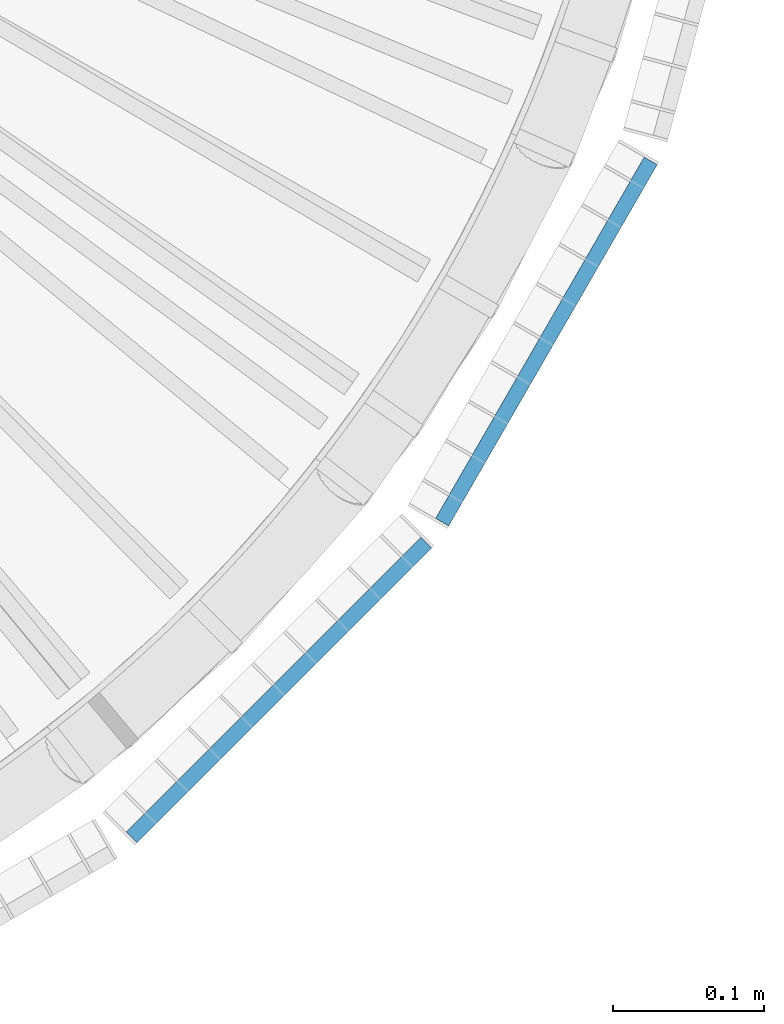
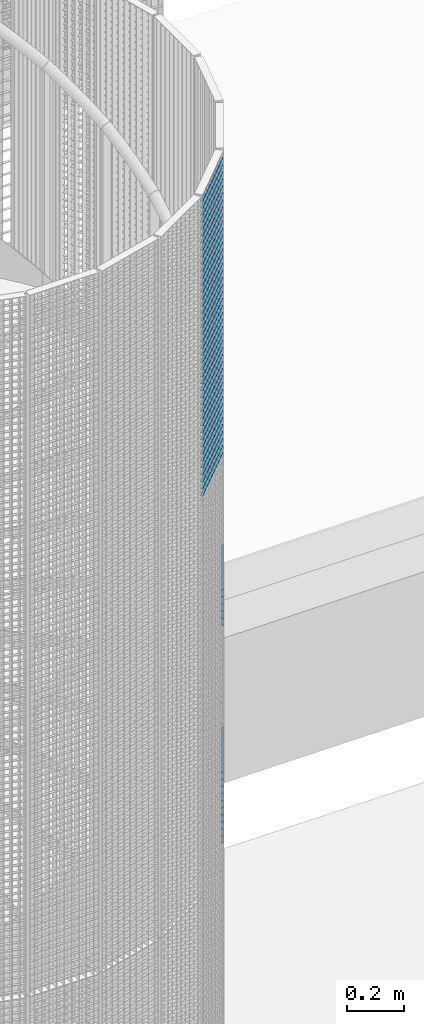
# One storey, part 223 of 1148: 60 beams, 2 elements without a shape of their own.
"""IFC2X3 building model written with IfcOpenShell, lengths in millimetres."""

from ifc_helpers import new_model, si_unit, frame, origin_with_axes, origin_2d_with_axis, place, context, subcontext, project, spatial, rectangle, extrude, material, type_object, element, aggregate, save


model = new_model("IFC2X3")

# Units and contexts
model_context = context("Model", 3, precision=1e-05, world=origin_with_axes())
body_context = subcontext(model_context, "Body", "Model", "MODEL_VIEW")
ifc_project = project(units=[si_unit("LENGTHUNIT", "METRE", prefix="MILLI"), si_unit("AREAUNIT", "SQUARE_METRE"), si_unit("VOLUMEUNIT", "CUBIC_METRE"), si_unit("MASSUNIT", "GRAM", prefix="KILO"), si_unit("TIMEUNIT", "SECOND"), si_unit("PLANEANGLEUNIT", "RADIAN"), si_unit("SOLIDANGLEUNIT", "STERADIAN"), si_unit("THERMODYNAMICTEMPERATUREUNIT", "DEGREE_CELSIUS"), si_unit("LUMINOUSINTENSITYUNIT", "LUMEN")], contexts=[model_context])

# Site, building, storey
site_placement = place(None, origin_with_axes())
site = spatial("IfcSite", under=ifc_project, at=site_placement, Name="Undefined", CompositionType="ELEMENT")
building_placement = place(site_placement, origin_with_axes())
building = spatial("IfcBuilding", under=site, at=building_placement, Name="Undefined", CompositionType="ELEMENT")
storey_placement = place(building_placement, origin_with_axes())
storey = spatial("IfcBuildingStorey", under=building, at=storey_placement, Name="Undefined", CompositionType="ELEMENT", Elevation=0.0)

# Assembly, beams
assembly_1_placement = place(storey_placement, origin_with_axes())
assembly_1 = element("IfcElementAssembly", 1, at=assembly_1_placement, inside=storey, Name="BORDURE", AssemblyPlace="NOTDEFINED", PredefinedType="NOTDEFINED")
ifc_material = material(Name="STEEL/S235JR")
beam_type = type_object("IfcBeamType", Name="PL2*10", PredefinedType="NOTDEFINED")
beam_1_placement = place(assembly_1_placement, frame((895.30396491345, -676.24804453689, 15330.0), z_axis=(0.866025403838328, -0.49999999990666, 0.0), x_axis=(0.49999999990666, 0.866025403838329, 0.0)))
beam_1 = element("IfcBeam", 2, at=beam_1_placement, type_object=beam_type, material=ifc_material, Name="ENTRETOISE", context=body_context, shape_type="SweptSolid", body=[
    extrude(rectangle(XDim=2.0, YDim=10.0, at=origin_2d_with_axis()), frame((275.999999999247, 9.09494701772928e-13, 1.53210777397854e-14), z_axis=(-1.0, 0.0, 0.0), x_axis=(0.0, -1.0, 0.0)), (0.0, 0.0, 1.0), 276.0),
])
beam_2_placement = place(assembly_1_placement, frame((895.303964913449, -676.248044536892, 15960.0), z_axis=(0.866025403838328, -0.49999999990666, 0.0), x_axis=(0.49999999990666, 0.866025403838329, 0.0)))
beam_2 = element("IfcBeam", 3, at=beam_2_placement, type_object=beam_type, material=ifc_material, Name="ENTRETOISE", context=body_context, shape_type="SweptSolid", body=[
    extrude(rectangle(XDim=2.0, YDim=10.0, at=origin_2d_with_axis()), frame((275.999999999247, 9.09494701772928e-13, 1.53210777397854e-14), z_axis=(-1.0, 0.0, 0.0), x_axis=(0.0, -1.0, 0.0)), (0.0, 0.0, 1.0), 276.0),
])
beam_3_placement = place(assembly_1_placement, frame((895.30396491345, -676.24804453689, 15300.0), z_axis=(0.866025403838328, -0.49999999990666, 0.0), x_axis=(0.49999999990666, 0.866025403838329, 0.0)))
beam_3 = element("IfcBeam", 4, at=beam_3_placement, type_object=beam_type, material=ifc_material, Name="ENTRETOISE", context=body_context, shape_type="SweptSolid", body=[
    extrude(rectangle(XDim=2.0, YDim=10.0, at=origin_2d_with_axis()), frame((275.999999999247, 9.09494701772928e-13, 1.53210777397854e-14), z_axis=(-1.0, 0.0, 0.0), x_axis=(0.0, -1.0, 0.0)), (0.0, 0.0, 1.0), 276.0),
])
beam_4_placement = place(assembly_1_placement, frame((895.30396491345, -676.24804453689, 15270.0), z_axis=(0.866025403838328, -0.49999999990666, 0.0), x_axis=(0.49999999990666, 0.866025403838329, 0.0)))
beam_4 = element("IfcBeam", 5, at=beam_4_placement, type_object=beam_type, material=ifc_material, Name="ENTRETOISE", context=body_context, shape_type="SweptSolid", body=[
    extrude(rectangle(XDim=2.0, YDim=10.0, at=origin_2d_with_axis()), frame((275.999999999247, 9.09494701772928e-13, 1.53210777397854e-14), z_axis=(-1.0, 0.0, 0.0), x_axis=(0.0, -1.0, 0.0)), (0.0, 0.0, 1.0), 276.0),
])
beam_5_placement = place(assembly_1_placement, frame((895.303964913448, -676.248044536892, 15990.0), z_axis=(0.866025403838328, -0.49999999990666, 0.0), x_axis=(0.49999999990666, 0.866025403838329, 0.0)))
beam_5 = element("IfcBeam", 6, at=beam_5_placement, type_object=beam_type, material=ifc_material, Name="ENTRETOISE", context=body_context, shape_type="SweptSolid", body=[
    extrude(rectangle(XDim=2.0, YDim=10.0, at=origin_2d_with_axis()), frame((275.999999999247, 9.09494701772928e-13, 1.53210777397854e-14), z_axis=(-1.0, 0.0, 0.0), x_axis=(0.0, -1.0, 0.0)), (0.0, 0.0, 1.0), 276.0),
])
beam_6_placement = place(assembly_1_placement, frame((895.30396491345, -676.24804453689, 15240.0), z_axis=(0.866025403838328, -0.49999999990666, 0.0), x_axis=(0.49999999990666, 0.866025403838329, 0.0)))
beam_6 = element("IfcBeam", 7, at=beam_6_placement, type_object=beam_type, material=ifc_material, Name="ENTRETOISE", context=body_context, shape_type="SweptSolid", body=[
    extrude(rectangle(XDim=2.0, YDim=10.0, at=origin_2d_with_axis()), frame((275.999999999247, 9.09494701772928e-13, 1.53210777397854e-14), z_axis=(-1.0, 0.0, 0.0), x_axis=(0.0, -1.0, 0.0)), (0.0, 0.0, 1.0), 276.0),
])
beam_7_placement = place(assembly_1_placement, frame((895.303964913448, -676.248044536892, 16020.0), z_axis=(0.866025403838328, -0.49999999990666, 0.0), x_axis=(0.49999999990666, 0.866025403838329, 0.0)))
beam_7 = element("IfcBeam", 8, at=beam_7_placement, type_object=beam_type, material=ifc_material, Name="ENTRETOISE", context=body_context, shape_type="SweptSolid", body=[
    extrude(rectangle(XDim=2.0, YDim=10.0, at=origin_2d_with_axis()), frame((275.999999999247, 9.09494701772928e-13, 1.53210777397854e-14), z_axis=(-1.0, 0.0, 0.0), x_axis=(0.0, -1.0, 0.0)), (0.0, 0.0, 1.0), 276.0),
])
beam_8_placement = place(assembly_1_placement, frame((895.30396491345, -676.24804453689, 15210.0), z_axis=(0.866025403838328, -0.49999999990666, 0.0), x_axis=(0.49999999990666, 0.866025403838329, 0.0)))
beam_8 = element("IfcBeam", 9, at=beam_8_placement, type_object=beam_type, material=ifc_material, Name="ENTRETOISE", context=body_context, shape_type="SweptSolid", body=[
    extrude(rectangle(XDim=2.0, YDim=10.0, at=origin_2d_with_axis()), frame((275.999999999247, 9.09494701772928e-13, 1.53210777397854e-14), z_axis=(-1.0, 0.0, 0.0), x_axis=(0.0, -1.0, 0.0)), (0.0, 0.0, 1.0), 276.0),
])
beam_9_placement = place(assembly_1_placement, frame((895.30396491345, -676.24804453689, 15180.0), z_axis=(0.866025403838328, -0.49999999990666, 0.0), x_axis=(0.49999999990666, 0.866025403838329, 0.0)))
beam_9 = element("IfcBeam", 10, at=beam_9_placement, type_object=beam_type, material=ifc_material, Name="ENTRETOISE", context=body_context, shape_type="SweptSolid", body=[
    extrude(rectangle(XDim=2.0, YDim=10.0, at=origin_2d_with_axis()), frame((275.999999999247, 9.09494701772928e-13, 1.53210777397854e-14), z_axis=(-1.0, 0.0, 0.0), x_axis=(0.0, -1.0, 0.0)), (0.0, 0.0, 1.0), 276.0),
])
beam_10_placement = place(assembly_1_placement, frame((895.303964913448, -676.248044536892, 16050.0), z_axis=(0.866025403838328, -0.49999999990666, 0.0), x_axis=(0.49999999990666, 0.866025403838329, 0.0)))
beam_10 = element("IfcBeam", 11, at=beam_10_placement, type_object=beam_type, material=ifc_material, Name="ENTRETOISE", context=body_context, shape_type="SweptSolid", body=[
    extrude(rectangle(XDim=2.0, YDim=10.0, at=origin_2d_with_axis()), frame((275.999999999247, 9.09494701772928e-13, 1.53210777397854e-14), z_axis=(-1.0, 0.0, 0.0), x_axis=(0.0, -1.0, 0.0)), (0.0, 0.0, 1.0), 276.0),
])
beam_11_placement = place(assembly_1_placement, frame((895.30396491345, -676.24804453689, 15150.0), z_axis=(0.866025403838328, -0.49999999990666, 0.0), x_axis=(0.49999999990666, 0.866025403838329, 0.0)))
beam_11 = element("IfcBeam", 12, at=beam_11_placement, type_object=beam_type, material=ifc_material, Name="ENTRETOISE", context=body_context, shape_type="SweptSolid", body=[
    extrude(rectangle(XDim=2.0, YDim=10.0, at=origin_2d_with_axis()), frame((275.999999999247, 9.09494701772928e-13, 1.53210777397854e-14), z_axis=(-1.0, 0.0, 0.0), x_axis=(0.0, -1.0, 0.0)), (0.0, 0.0, 1.0), 276.0),
])
beam_12_placement = place(assembly_1_placement, frame((895.30396491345, -676.24804453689, 15120.0), z_axis=(0.866025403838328, -0.49999999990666, 0.0), x_axis=(0.49999999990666, 0.866025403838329, 0.0)))
beam_12 = element("IfcBeam", 13, at=beam_12_placement, type_object=beam_type, material=ifc_material, Name="ENTRETOISE", context=body_context, shape_type="SweptSolid", body=[
    extrude(rectangle(XDim=2.0, YDim=10.0, at=origin_2d_with_axis()), frame((275.999999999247, 9.09494701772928e-13, 1.53210777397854e-14), z_axis=(-1.0, 0.0, 0.0), x_axis=(0.0, -1.0, 0.0)), (0.0, 0.0, 1.0), 276.0),
])
beam_13_placement = place(assembly_1_placement, frame((895.303964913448, -676.248044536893, 16080.0), z_axis=(0.866025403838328, -0.49999999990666, 0.0), x_axis=(0.49999999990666, 0.866025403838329, 0.0)))
beam_13 = element("IfcBeam", 14, at=beam_13_placement, type_object=beam_type, material=ifc_material, Name="ENTRETOISE", context=body_context, shape_type="SweptSolid", body=[
    extrude(rectangle(XDim=2.0, YDim=10.0, at=origin_2d_with_axis()), frame((275.999999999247, 9.09494701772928e-13, 1.53210777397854e-14), z_axis=(-1.0, 0.0, 0.0), x_axis=(0.0, -1.0, 0.0)), (0.0, 0.0, 1.0), 276.0),
])
beam_14_placement = place(assembly_1_placement, frame((895.30396491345, -676.248044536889, 15090.0), z_axis=(0.866025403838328, -0.49999999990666, 0.0), x_axis=(0.49999999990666, 0.866025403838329, 0.0)))
beam_14 = element("IfcBeam", 15, at=beam_14_placement, type_object=beam_type, material=ifc_material, Name="ENTRETOISE", context=body_context, shape_type="SweptSolid", body=[
    extrude(rectangle(XDim=2.0, YDim=10.0, at=origin_2d_with_axis()), frame((275.999999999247, 9.09494701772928e-13, 1.53210777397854e-14), z_axis=(-1.0, 0.0, 0.0), x_axis=(0.0, -1.0, 0.0)), (0.0, 0.0, 1.0), 276.0),
])
beam_15_placement = place(assembly_1_placement, frame((895.30396491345, -676.248044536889, 15060.0), z_axis=(0.866025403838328, -0.49999999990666, 0.0), x_axis=(0.49999999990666, 0.866025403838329, 0.0)))
beam_15 = element("IfcBeam", 16, at=beam_15_placement, type_object=beam_type, material=ifc_material, Name="ENTRETOISE", context=body_context, shape_type="SweptSolid", body=[
    extrude(rectangle(XDim=2.0, YDim=10.0, at=origin_2d_with_axis()), frame((275.999999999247, 9.09494701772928e-13, 1.53210777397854e-14), z_axis=(-1.0, 0.0, 0.0), x_axis=(0.0, -1.0, 0.0)), (0.0, 0.0, 1.0), 276.0),
])
beam_16_placement = place(assembly_1_placement, frame((895.303964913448, -676.248044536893, 16110.0), z_axis=(0.866025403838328, -0.49999999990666, 0.0), x_axis=(0.49999999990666, 0.866025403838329, 0.0)))
beam_16 = element("IfcBeam", 17, at=beam_16_placement, type_object=beam_type, material=ifc_material, Name="ENTRETOISE", context=body_context, shape_type="SweptSolid", body=[
    extrude(rectangle(XDim=2.0, YDim=10.0, at=origin_2d_with_axis()), frame((275.999999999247, 9.09494701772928e-13, 1.53210777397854e-14), z_axis=(-1.0, 0.0, 0.0), x_axis=(0.0, -1.0, 0.0)), (0.0, 0.0, 1.0), 276.0),
])
beam_17_placement = place(assembly_1_placement, frame((895.30396491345, -676.248044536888, 15030.0), z_axis=(0.866025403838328, -0.49999999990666, 0.0), x_axis=(0.49999999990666, 0.866025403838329, 0.0)))
beam_17 = element("IfcBeam", 18, at=beam_17_placement, type_object=beam_type, material=ifc_material, Name="ENTRETOISE", context=body_context, shape_type="SweptSolid", body=[
    extrude(rectangle(XDim=2.0, YDim=10.0, at=origin_2d_with_axis()), frame((275.999999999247, 9.09494701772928e-13, 1.53210777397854e-14), z_axis=(-1.0, 0.0, 0.0), x_axis=(0.0, -1.0, 0.0)), (0.0, 0.0, 1.0), 276.0),
])
aggregate(assembly_1, [beam_1, beam_2, beam_3, beam_4, beam_5, beam_6, beam_7, beam_8, beam_9, beam_10, beam_11, beam_12, beam_13, beam_14, beam_15, beam_16, beam_17])

assembly_2_placement = place(storey_placement, origin_with_axes())
assembly_2 = element("IfcElementAssembly", 19, at=assembly_2_placement, inside=storey, Name="BORDURE", AssemblyPlace="NOTDEFINED", PredefinedType="NOTDEFINED")
beam_18_placement = place(assembly_2_placement, frame((689.771348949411, -884.927168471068, 17970.0), z_axis=(0.707106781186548, -0.707106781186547, 0.0), x_axis=(0.707106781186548, 0.707106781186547, 0.0)))
beam_18 = element("IfcBeam", 20, at=beam_18_placement, type_object=beam_type, material=ifc_material, Name="ENTRETOISE", context=body_context, shape_type="SweptSolid", body=[
    extrude(rectangle(XDim=2.0, YDim=10.0, at=origin_2d_with_axis()), frame((275.999999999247, 9.09494701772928e-13, 1.53210777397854e-14), z_axis=(-1.0, 0.0, 0.0), x_axis=(0.0, -1.0, 0.0)), (0.0, 0.0, 1.0), 276.0),
])
beam_19_placement = place(assembly_2_placement, frame((689.771348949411, -884.927168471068, 17940.0), z_axis=(0.707106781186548, -0.707106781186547, 0.0), x_axis=(0.707106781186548, 0.707106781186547, 0.0)))
beam_19 = element("IfcBeam", 21, at=beam_19_placement, type_object=beam_type, material=ifc_material, Name="ENTRETOISE", context=body_context, shape_type="SweptSolid", body=[
    extrude(rectangle(XDim=2.0, YDim=10.0, at=origin_2d_with_axis()), frame((275.999999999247, 9.09494701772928e-13, 1.53210777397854e-14), z_axis=(-1.0, 0.0, 0.0), x_axis=(0.0, -1.0, 0.0)), (0.0, 0.0, 1.0), 276.0),
])
beam_20_placement = place(assembly_2_placement, frame((689.771348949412, -884.927168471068, 17910.0), z_axis=(0.707106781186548, -0.707106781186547, 0.0), x_axis=(0.707106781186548, 0.707106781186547, 0.0)))
beam_20 = element("IfcBeam", 22, at=beam_20_placement, type_object=beam_type, material=ifc_material, Name="ENTRETOISE", context=body_context, shape_type="SweptSolid", body=[
    extrude(rectangle(XDim=2.0, YDim=10.0, at=origin_2d_with_axis()), frame((275.999999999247, 9.09494701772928e-13, 1.53210777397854e-14), z_axis=(-1.0, 0.0, 0.0), x_axis=(0.0, -1.0, 0.0)), (0.0, 0.0, 1.0), 276.0),
])
beam_21_placement = place(assembly_2_placement, frame((689.771348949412, -884.927168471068, 17880.0), z_axis=(0.707106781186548, -0.707106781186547, 0.0), x_axis=(0.707106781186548, 0.707106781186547, 0.0)))
beam_21 = element("IfcBeam", 23, at=beam_21_placement, type_object=beam_type, material=ifc_material, Name="ENTRETOISE", context=body_context, shape_type="SweptSolid", body=[
    extrude(rectangle(XDim=2.0, YDim=10.0, at=origin_2d_with_axis()), frame((275.999999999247, 9.09494701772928e-13, 1.53210777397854e-14), z_axis=(-1.0, 0.0, 0.0), x_axis=(0.0, -1.0, 0.0)), (0.0, 0.0, 1.0), 276.0),
])
beam_22_placement = place(assembly_2_placement, frame((689.771348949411, -884.927168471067, 17850.0), z_axis=(0.707106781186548, -0.707106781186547, 0.0), x_axis=(0.707106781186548, 0.707106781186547, 0.0)))
beam_22 = element("IfcBeam", 24, at=beam_22_placement, type_object=beam_type, material=ifc_material, Name="ENTRETOISE", context=body_context, shape_type="SweptSolid", body=[
    extrude(rectangle(XDim=2.0, YDim=10.0, at=origin_2d_with_axis()), frame((275.999999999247, 9.09494701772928e-13, 1.53210777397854e-14), z_axis=(-1.0, 0.0, 0.0), x_axis=(0.0, -1.0, 0.0)), (0.0, 0.0, 1.0), 276.0),
])
beam_23_placement = place(assembly_2_placement, frame((689.771348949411, -884.927168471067, 17820.0), z_axis=(0.707106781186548, -0.707106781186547, 0.0), x_axis=(0.707106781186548, 0.707106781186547, 0.0)))
beam_23 = element("IfcBeam", 25, at=beam_23_placement, type_object=beam_type, material=ifc_material, Name="ENTRETOISE", context=body_context, shape_type="SweptSolid", body=[
    extrude(rectangle(XDim=2.0, YDim=10.0, at=origin_2d_with_axis()), frame((275.999999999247, 9.09494701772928e-13, 1.53210777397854e-14), z_axis=(-1.0, 0.0, 0.0), x_axis=(0.0, -1.0, 0.0)), (0.0, 0.0, 1.0), 276.0),
])
beam_24_placement = place(assembly_2_placement, frame((689.771348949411, -884.927168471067, 17790.0), z_axis=(0.707106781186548, -0.707106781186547, 0.0), x_axis=(0.707106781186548, 0.707106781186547, 0.0)))
beam_24 = element("IfcBeam", 26, at=beam_24_placement, type_object=beam_type, material=ifc_material, Name="ENTRETOISE", context=body_context, shape_type="SweptSolid", body=[
    extrude(rectangle(XDim=2.0, YDim=10.0, at=origin_2d_with_axis()), frame((275.999999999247, 9.09494701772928e-13, 1.53210777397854e-14), z_axis=(-1.0, 0.0, 0.0), x_axis=(0.0, -1.0, 0.0)), (0.0, 0.0, 1.0), 276.0),
])
beam_25_placement = place(assembly_2_placement, frame((689.771348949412, -884.927168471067, 17760.0), z_axis=(0.707106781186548, -0.707106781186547, 0.0), x_axis=(0.707106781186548, 0.707106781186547, 0.0)))
beam_25 = element("IfcBeam", 27, at=beam_25_placement, type_object=beam_type, material=ifc_material, Name="ENTRETOISE", context=body_context, shape_type="SweptSolid", body=[
    extrude(rectangle(XDim=2.0, YDim=10.0, at=origin_2d_with_axis()), frame((275.999999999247, 9.09494701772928e-13, 1.53210777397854e-14), z_axis=(-1.0, 0.0, 0.0), x_axis=(0.0, -1.0, 0.0)), (0.0, 0.0, 1.0), 276.0),
])
beam_26_placement = place(assembly_2_placement, frame((689.771348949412, -884.927168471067, 17730.0), z_axis=(0.707106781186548, -0.707106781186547, 0.0), x_axis=(0.707106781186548, 0.707106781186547, 0.0)))
beam_26 = element("IfcBeam", 28, at=beam_26_placement, type_object=beam_type, material=ifc_material, Name="ENTRETOISE", context=body_context, shape_type="SweptSolid", body=[
    extrude(rectangle(XDim=2.0, YDim=10.0, at=origin_2d_with_axis()), frame((275.999999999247, 9.09494701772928e-13, 1.53210777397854e-14), z_axis=(-1.0, 0.0, 0.0), x_axis=(0.0, -1.0, 0.0)), (0.0, 0.0, 1.0), 276.0),
])
beam_27_placement = place(assembly_2_placement, frame((689.771348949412, -884.927168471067, 17700.0), z_axis=(0.707106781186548, -0.707106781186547, 0.0), x_axis=(0.707106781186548, 0.707106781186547, 0.0)))
beam_27 = element("IfcBeam", 29, at=beam_27_placement, type_object=beam_type, material=ifc_material, Name="ENTRETOISE", context=body_context, shape_type="SweptSolid", body=[
    extrude(rectangle(XDim=2.0, YDim=10.0, at=origin_2d_with_axis()), frame((275.999999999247, 9.09494701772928e-13, 1.53210777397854e-14), z_axis=(-1.0, 0.0, 0.0), x_axis=(0.0, -1.0, 0.0)), (0.0, 0.0, 1.0), 276.0),
])
beam_28_placement = place(assembly_2_placement, frame((689.771348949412, -884.927168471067, 17670.0), z_axis=(0.707106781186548, -0.707106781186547, 0.0), x_axis=(0.707106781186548, 0.707106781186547, 0.0)))
beam_28 = element("IfcBeam", 30, at=beam_28_placement, type_object=beam_type, material=ifc_material, Name="ENTRETOISE", context=body_context, shape_type="SweptSolid", body=[
    extrude(rectangle(XDim=2.0, YDim=10.0, at=origin_2d_with_axis()), frame((275.999999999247, 9.09494701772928e-13, 1.53210777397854e-14), z_axis=(-1.0, 0.0, 0.0), x_axis=(0.0, -1.0, 0.0)), (0.0, 0.0, 1.0), 276.0),
])
beam_29_placement = place(assembly_2_placement, frame((689.771348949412, -884.927168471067, 17640.0), z_axis=(0.707106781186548, -0.707106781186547, 0.0), x_axis=(0.707106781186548, 0.707106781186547, 0.0)))
beam_29 = element("IfcBeam", 31, at=beam_29_placement, type_object=beam_type, material=ifc_material, Name="ENTRETOISE", context=body_context, shape_type="SweptSolid", body=[
    extrude(rectangle(XDim=2.0, YDim=10.0, at=origin_2d_with_axis()), frame((275.999999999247, 9.09494701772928e-13, 1.53210777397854e-14), z_axis=(-1.0, 0.0, 0.0), x_axis=(0.0, -1.0, 0.0)), (0.0, 0.0, 1.0), 276.0),
])
beam_30_placement = place(assembly_2_placement, frame((689.771348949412, -884.927168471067, 17610.0), z_axis=(0.707106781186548, -0.707106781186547, 0.0), x_axis=(0.707106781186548, 0.707106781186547, 0.0)))
beam_30 = element("IfcBeam", 32, at=beam_30_placement, type_object=beam_type, material=ifc_material, Name="ENTRETOISE", context=body_context, shape_type="SweptSolid", body=[
    extrude(rectangle(XDim=2.0, YDim=10.0, at=origin_2d_with_axis()), frame((275.999999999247, 9.09494701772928e-13, 1.53210777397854e-14), z_axis=(-1.0, 0.0, 0.0), x_axis=(0.0, -1.0, 0.0)), (0.0, 0.0, 1.0), 276.0),
])
beam_31_placement = place(assembly_2_placement, frame((689.771348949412, -884.927168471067, 17580.0), z_axis=(0.707106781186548, -0.707106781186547, 0.0), x_axis=(0.707106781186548, 0.707106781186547, 0.0)))
beam_31 = element("IfcBeam", 33, at=beam_31_placement, type_object=beam_type, material=ifc_material, Name="ENTRETOISE", context=body_context, shape_type="SweptSolid", body=[
    extrude(rectangle(XDim=2.0, YDim=10.0, at=origin_2d_with_axis()), frame((275.999999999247, 9.09494701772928e-13, 1.53210777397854e-14), z_axis=(-1.0, 0.0, 0.0), x_axis=(0.0, -1.0, 0.0)), (0.0, 0.0, 1.0), 276.0),
])
beam_32_placement = place(assembly_2_placement, frame((689.771348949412, -884.927168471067, 17550.0), z_axis=(0.707106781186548, -0.707106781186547, 0.0), x_axis=(0.707106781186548, 0.707106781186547, 0.0)))
beam_32 = element("IfcBeam", 34, at=beam_32_placement, type_object=beam_type, material=ifc_material, Name="ENTRETOISE", context=body_context, shape_type="SweptSolid", body=[
    extrude(rectangle(XDim=2.0, YDim=10.0, at=origin_2d_with_axis()), frame((275.999999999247, 9.09494701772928e-13, 1.53210777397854e-14), z_axis=(-1.0, 0.0, 0.0), x_axis=(0.0, -1.0, 0.0)), (0.0, 0.0, 1.0), 276.0),
])
beam_33_placement = place(assembly_2_placement, frame((689.771348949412, -884.927168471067, 17520.0), z_axis=(0.707106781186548, -0.707106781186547, 0.0), x_axis=(0.707106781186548, 0.707106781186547, 0.0)))
beam_33 = element("IfcBeam", 35, at=beam_33_placement, type_object=beam_type, material=ifc_material, Name="ENTRETOISE", context=body_context, shape_type="SweptSolid", body=[
    extrude(rectangle(XDim=2.0, YDim=10.0, at=origin_2d_with_axis()), frame((275.999999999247, 9.09494701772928e-13, 1.53210777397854e-14), z_axis=(-1.0, 0.0, 0.0), x_axis=(0.0, -1.0, 0.0)), (0.0, 0.0, 1.0), 276.0),
])
beam_34_placement = place(assembly_2_placement, frame((689.771348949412, -884.927168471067, 17490.0), z_axis=(0.707106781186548, -0.707106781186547, 0.0), x_axis=(0.707106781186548, 0.707106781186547, 0.0)))
beam_34 = element("IfcBeam", 36, at=beam_34_placement, type_object=beam_type, material=ifc_material, Name="ENTRETOISE", context=body_context, shape_type="SweptSolid", body=[
    extrude(rectangle(XDim=2.0, YDim=10.0, at=origin_2d_with_axis()), frame((275.999999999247, 9.09494701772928e-13, 1.53210777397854e-14), z_axis=(-1.0, 0.0, 0.0), x_axis=(0.0, -1.0, 0.0)), (0.0, 0.0, 1.0), 276.0),
])
beam_35_placement = place(assembly_2_placement, frame((689.771348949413, -884.927168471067, 17460.0), z_axis=(0.707106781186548, -0.707106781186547, 0.0), x_axis=(0.707106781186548, 0.707106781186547, 0.0)))
beam_35 = element("IfcBeam", 37, at=beam_35_placement, type_object=beam_type, material=ifc_material, Name="ENTRETOISE", context=body_context, shape_type="SweptSolid", body=[
    extrude(rectangle(XDim=2.0, YDim=10.0, at=origin_2d_with_axis()), frame((275.999999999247, 9.09494701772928e-13, 1.53210777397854e-14), z_axis=(-1.0, 0.0, 0.0), x_axis=(0.0, -1.0, 0.0)), (0.0, 0.0, 1.0), 276.0),
])
beam_36_placement = place(assembly_2_placement, frame((689.771348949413, -884.927168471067, 17430.0), z_axis=(0.707106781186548, -0.707106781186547, 0.0), x_axis=(0.707106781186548, 0.707106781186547, 0.0)))
beam_36 = element("IfcBeam", 38, at=beam_36_placement, type_object=beam_type, material=ifc_material, Name="ENTRETOISE", context=body_context, shape_type="SweptSolid", body=[
    extrude(rectangle(XDim=2.0, YDim=10.0, at=origin_2d_with_axis()), frame((275.999999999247, 9.09494701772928e-13, 1.53210777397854e-14), z_axis=(-1.0, 0.0, 0.0), x_axis=(0.0, -1.0, 0.0)), (0.0, 0.0, 1.0), 276.0),
])
beam_37_placement = place(assembly_2_placement, frame((689.771348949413, -884.927168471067, 17400.0), z_axis=(0.707106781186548, -0.707106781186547, 0.0), x_axis=(0.707106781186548, 0.707106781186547, 0.0)))
beam_37 = element("IfcBeam", 39, at=beam_37_placement, type_object=beam_type, material=ifc_material, Name="ENTRETOISE", context=body_context, shape_type="SweptSolid", body=[
    extrude(rectangle(XDim=2.0, YDim=10.0, at=origin_2d_with_axis()), frame((275.999999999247, 9.09494701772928e-13, 1.53210777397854e-14), z_axis=(-1.0, 0.0, 0.0), x_axis=(0.0, -1.0, 0.0)), (0.0, 0.0, 1.0), 276.0),
])
beam_38_placement = place(assembly_2_placement, frame((689.771348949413, -884.927168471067, 17370.0), z_axis=(0.707106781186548, -0.707106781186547, 0.0), x_axis=(0.707106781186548, 0.707106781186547, 0.0)))
beam_38 = element("IfcBeam", 40, at=beam_38_placement, type_object=beam_type, material=ifc_material, Name="ENTRETOISE", context=body_context, shape_type="SweptSolid", body=[
    extrude(rectangle(XDim=2.0, YDim=10.0, at=origin_2d_with_axis()), frame((275.999999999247, 9.09494701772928e-13, 1.53210777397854e-14), z_axis=(-1.0, 0.0, 0.0), x_axis=(0.0, -1.0, 0.0)), (0.0, 0.0, 1.0), 276.0),
])
beam_39_placement = place(assembly_2_placement, frame((689.771348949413, -884.927168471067, 17340.0), z_axis=(0.707106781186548, -0.707106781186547, 0.0), x_axis=(0.707106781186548, 0.707106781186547, 0.0)))
beam_39 = element("IfcBeam", 41, at=beam_39_placement, type_object=beam_type, material=ifc_material, Name="ENTRETOISE", context=body_context, shape_type="SweptSolid", body=[
    extrude(rectangle(XDim=2.0, YDim=10.0, at=origin_2d_with_axis()), frame((275.999999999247, 9.09494701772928e-13, 1.53210777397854e-14), z_axis=(-1.0, 0.0, 0.0), x_axis=(0.0, -1.0, 0.0)), (0.0, 0.0, 1.0), 276.0),
])
beam_40_placement = place(assembly_2_placement, frame((689.771348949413, -884.927168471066, 17310.0), z_axis=(0.707106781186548, -0.707106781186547, 0.0), x_axis=(0.707106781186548, 0.707106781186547, 0.0)))
beam_40 = element("IfcBeam", 42, at=beam_40_placement, type_object=beam_type, material=ifc_material, Name="ENTRETOISE", context=body_context, shape_type="SweptSolid", body=[
    extrude(rectangle(XDim=2.0, YDim=10.0, at=origin_2d_with_axis()), frame((275.999999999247, 9.09494701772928e-13, 1.53210777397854e-14), z_axis=(-1.0, 0.0, 0.0), x_axis=(0.0, -1.0, 0.0)), (0.0, 0.0, 1.0), 276.0),
])
beam_41_placement = place(assembly_2_placement, frame((689.771348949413, -884.927168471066, 17280.0), z_axis=(0.707106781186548, -0.707106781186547, 0.0), x_axis=(0.707106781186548, 0.707106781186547, 0.0)))
beam_41 = element("IfcBeam", 43, at=beam_41_placement, type_object=beam_type, material=ifc_material, Name="ENTRETOISE", context=body_context, shape_type="SweptSolid", body=[
    extrude(rectangle(XDim=2.0, YDim=10.0, at=origin_2d_with_axis()), frame((275.999999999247, 9.09494701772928e-13, 1.53210777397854e-14), z_axis=(-1.0, 0.0, 0.0), x_axis=(0.0, -1.0, 0.0)), (0.0, 0.0, 1.0), 276.0),
])
beam_42_placement = place(assembly_2_placement, frame((689.771348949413, -884.927168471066, 17250.0), z_axis=(0.707106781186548, -0.707106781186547, 0.0), x_axis=(0.707106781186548, 0.707106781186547, 0.0)))
beam_42 = element("IfcBeam", 44, at=beam_42_placement, type_object=beam_type, material=ifc_material, Name="ENTRETOISE", context=body_context, shape_type="SweptSolid", body=[
    extrude(rectangle(XDim=2.0, YDim=10.0, at=origin_2d_with_axis()), frame((275.999999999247, 9.09494701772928e-13, 1.53210777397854e-14), z_axis=(-1.0, 0.0, 0.0), x_axis=(0.0, -1.0, 0.0)), (0.0, 0.0, 1.0), 276.0),
])
beam_43_placement = place(assembly_2_placement, frame((689.771348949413, -884.927168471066, 17220.0), z_axis=(0.707106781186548, -0.707106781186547, 0.0), x_axis=(0.707106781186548, 0.707106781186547, 0.0)))
beam_43 = element("IfcBeam", 45, at=beam_43_placement, type_object=beam_type, material=ifc_material, Name="ENTRETOISE", context=body_context, shape_type="SweptSolid", body=[
    extrude(rectangle(XDim=2.0, YDim=10.0, at=origin_2d_with_axis()), frame((275.999999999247, 9.09494701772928e-13, 1.53210777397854e-14), z_axis=(-1.0, 0.0, 0.0), x_axis=(0.0, -1.0, 0.0)), (0.0, 0.0, 1.0), 276.0),
])
beam_44_placement = place(assembly_2_placement, frame((689.771348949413, -884.927168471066, 17190.0), z_axis=(0.707106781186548, -0.707106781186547, 0.0), x_axis=(0.707106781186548, 0.707106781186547, 0.0)))
beam_44 = element("IfcBeam", 46, at=beam_44_placement, type_object=beam_type, material=ifc_material, Name="ENTRETOISE", context=body_context, shape_type="SweptSolid", body=[
    extrude(rectangle(XDim=2.0, YDim=10.0, at=origin_2d_with_axis()), frame((275.999999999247, 9.09494701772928e-13, 1.53210777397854e-14), z_axis=(-1.0, 0.0, 0.0), x_axis=(0.0, -1.0, 0.0)), (0.0, 0.0, 1.0), 276.0),
])
beam_45_placement = place(assembly_2_placement, frame((689.771348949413, -884.927168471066, 17160.0), z_axis=(0.707106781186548, -0.707106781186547, 0.0), x_axis=(0.707106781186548, 0.707106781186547, 0.0)))
beam_45 = element("IfcBeam", 47, at=beam_45_placement, type_object=beam_type, material=ifc_material, Name="ENTRETOISE", context=body_context, shape_type="SweptSolid", body=[
    extrude(rectangle(XDim=2.0, YDim=10.0, at=origin_2d_with_axis()), frame((275.999999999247, 9.09494701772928e-13, 1.53210777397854e-14), z_axis=(-1.0, 0.0, 0.0), x_axis=(0.0, -1.0, 0.0)), (0.0, 0.0, 1.0), 276.0),
])
beam_46_placement = place(assembly_2_placement, frame((689.771348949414, -884.927168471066, 17130.0), z_axis=(0.707106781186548, -0.707106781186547, 0.0), x_axis=(0.707106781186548, 0.707106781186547, 0.0)))
beam_46 = element("IfcBeam", 48, at=beam_46_placement, type_object=beam_type, material=ifc_material, Name="ENTRETOISE", context=body_context, shape_type="SweptSolid", body=[
    extrude(rectangle(XDim=2.0, YDim=10.0, at=origin_2d_with_axis()), frame((275.999999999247, 9.09494701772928e-13, 1.53210777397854e-14), z_axis=(-1.0, 0.0, 0.0), x_axis=(0.0, -1.0, 0.0)), (0.0, 0.0, 1.0), 276.0),
])
beam_47_placement = place(assembly_2_placement, frame((689.771348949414, -884.927168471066, 17100.0), z_axis=(0.707106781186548, -0.707106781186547, 0.0), x_axis=(0.707106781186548, 0.707106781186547, 0.0)))
beam_47 = element("IfcBeam", 49, at=beam_47_placement, type_object=beam_type, material=ifc_material, Name="ENTRETOISE", context=body_context, shape_type="SweptSolid", body=[
    extrude(rectangle(XDim=2.0, YDim=10.0, at=origin_2d_with_axis()), frame((275.999999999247, 9.09494701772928e-13, 1.53210777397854e-14), z_axis=(-1.0, 0.0, 0.0), x_axis=(0.0, -1.0, 0.0)), (0.0, 0.0, 1.0), 276.0),
])
beam_48_placement = place(assembly_2_placement, frame((689.771348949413, -884.927168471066, 17070.0), z_axis=(0.707106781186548, -0.707106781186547, 0.0), x_axis=(0.707106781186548, 0.707106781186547, 0.0)))
beam_48 = element("IfcBeam", 50, at=beam_48_placement, type_object=beam_type, material=ifc_material, Name="ENTRETOISE", context=body_context, shape_type="SweptSolid", body=[
    extrude(rectangle(XDim=2.0, YDim=10.0, at=origin_2d_with_axis()), frame((275.999999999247, 9.09494701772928e-13, 1.53210777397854e-14), z_axis=(-1.0, 0.0, 0.0), x_axis=(0.0, -1.0, 0.0)), (0.0, 0.0, 1.0), 276.0),
])
beam_49_placement = place(assembly_2_placement, frame((689.771348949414, -884.927168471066, 17040.0), z_axis=(0.707106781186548, -0.707106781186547, 0.0), x_axis=(0.707106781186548, 0.707106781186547, 0.0)))
beam_49 = element("IfcBeam", 51, at=beam_49_placement, type_object=beam_type, material=ifc_material, Name="ENTRETOISE", context=body_context, shape_type="SweptSolid", body=[
    extrude(rectangle(XDim=2.0, YDim=10.0, at=origin_2d_with_axis()), frame((275.999999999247, 9.09494701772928e-13, 1.53210777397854e-14), z_axis=(-1.0, 0.0, 0.0), x_axis=(0.0, -1.0, 0.0)), (0.0, 0.0, 1.0), 276.0),
])
beam_50_placement = place(assembly_2_placement, frame((689.771348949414, -884.927168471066, 17010.0), z_axis=(0.707106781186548, -0.707106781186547, 0.0), x_axis=(0.707106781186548, 0.707106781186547, 0.0)))
beam_50 = element("IfcBeam", 52, at=beam_50_placement, type_object=beam_type, material=ifc_material, Name="ENTRETOISE", context=body_context, shape_type="SweptSolid", body=[
    extrude(rectangle(XDim=2.0, YDim=10.0, at=origin_2d_with_axis()), frame((275.999999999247, 9.09494701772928e-13, 1.53210777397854e-14), z_axis=(-1.0, 0.0, 0.0), x_axis=(0.0, -1.0, 0.0)), (0.0, 0.0, 1.0), 276.0),
])
beam_51_placement = place(assembly_2_placement, frame((689.771348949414, -884.927168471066, 16980.0), z_axis=(0.707106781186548, -0.707106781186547, 0.0), x_axis=(0.707106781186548, 0.707106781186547, 0.0)))
beam_51 = element("IfcBeam", 53, at=beam_51_placement, type_object=beam_type, material=ifc_material, Name="ENTRETOISE", context=body_context, shape_type="SweptSolid", body=[
    extrude(rectangle(XDim=2.0, YDim=10.0, at=origin_2d_with_axis()), frame((275.999999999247, 9.09494701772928e-13, 1.53210777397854e-14), z_axis=(-1.0, 0.0, 0.0), x_axis=(0.0, -1.0, 0.0)), (0.0, 0.0, 1.0), 276.0),
])
beam_52_placement = place(assembly_2_placement, frame((689.771348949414, -884.927168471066, 16950.0), z_axis=(0.707106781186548, -0.707106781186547, 0.0), x_axis=(0.707106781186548, 0.707106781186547, 0.0)))
beam_52 = element("IfcBeam", 54, at=beam_52_placement, type_object=beam_type, material=ifc_material, Name="ENTRETOISE", context=body_context, shape_type="SweptSolid", body=[
    extrude(rectangle(XDim=2.0, YDim=10.0, at=origin_2d_with_axis()), frame((275.999999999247, 9.09494701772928e-13, 1.53210777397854e-14), z_axis=(-1.0, 0.0, 0.0), x_axis=(0.0, -1.0, 0.0)), (0.0, 0.0, 1.0), 276.0),
])
beam_53_placement = place(assembly_2_placement, frame((689.771348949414, -884.927168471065, 16920.0), z_axis=(0.707106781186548, -0.707106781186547, 0.0), x_axis=(0.707106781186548, 0.707106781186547, 0.0)))
beam_53 = element("IfcBeam", 55, at=beam_53_placement, type_object=beam_type, material=ifc_material, Name="ENTRETOISE", context=body_context, shape_type="SweptSolid", body=[
    extrude(rectangle(XDim=2.0, YDim=10.0, at=origin_2d_with_axis()), frame((275.999999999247, 9.09494701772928e-13, 1.53210777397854e-14), z_axis=(-1.0, 0.0, 0.0), x_axis=(0.0, -1.0, 0.0)), (0.0, 0.0, 1.0), 276.0),
])
beam_54_placement = place(assembly_2_placement, frame((689.771348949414, -884.927168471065, 16890.0), z_axis=(0.707106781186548, -0.707106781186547, 0.0), x_axis=(0.707106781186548, 0.707106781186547, 0.0)))
beam_54 = element("IfcBeam", 56, at=beam_54_placement, type_object=beam_type, material=ifc_material, Name="ENTRETOISE", context=body_context, shape_type="SweptSolid", body=[
    extrude(rectangle(XDim=2.0, YDim=10.0, at=origin_2d_with_axis()), frame((275.999999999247, 9.09494701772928e-13, 1.53210777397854e-14), z_axis=(-1.0, 0.0, 0.0), x_axis=(0.0, -1.0, 0.0)), (0.0, 0.0, 1.0), 276.0),
])
beam_55_placement = place(assembly_2_placement, frame((689.771348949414, -884.927168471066, 16860.0), z_axis=(0.707106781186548, -0.707106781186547, 0.0), x_axis=(0.707106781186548, 0.707106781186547, 0.0)))
beam_55 = element("IfcBeam", 57, at=beam_55_placement, type_object=beam_type, material=ifc_material, Name="ENTRETOISE", context=body_context, shape_type="SweptSolid", body=[
    extrude(rectangle(XDim=2.0, YDim=10.0, at=origin_2d_with_axis()), frame((275.999999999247, 9.09494701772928e-13, 1.53210777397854e-14), z_axis=(-1.0, 0.0, 0.0), x_axis=(0.0, -1.0, 0.0)), (0.0, 0.0, 1.0), 276.0),
])
beam_56_placement = place(assembly_2_placement, frame((689.771348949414, -884.927168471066, 16830.0), z_axis=(0.707106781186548, -0.707106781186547, 0.0), x_axis=(0.707106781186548, 0.707106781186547, 0.0)))
beam_56 = element("IfcBeam", 58, at=beam_56_placement, type_object=beam_type, material=ifc_material, Name="ENTRETOISE", context=body_context, shape_type="SweptSolid", body=[
    extrude(rectangle(XDim=2.0, YDim=10.0, at=origin_2d_with_axis()), frame((275.999999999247, 9.09494701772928e-13, 1.53210777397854e-14), z_axis=(-1.0, 0.0, 0.0), x_axis=(0.0, -1.0, 0.0)), (0.0, 0.0, 1.0), 276.0),
])
beam_57_placement = place(assembly_2_placement, frame((689.771348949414, -884.927168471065, 16800.0), z_axis=(0.707106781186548, -0.707106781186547, 0.0), x_axis=(0.707106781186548, 0.707106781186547, 0.0)))
beam_57 = element("IfcBeam", 59, at=beam_57_placement, type_object=beam_type, material=ifc_material, Name="ENTRETOISE", context=body_context, shape_type="SweptSolid", body=[
    extrude(rectangle(XDim=2.0, YDim=10.0, at=origin_2d_with_axis()), frame((275.999999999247, 9.09494701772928e-13, 1.53210777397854e-14), z_axis=(-1.0, 0.0, 0.0), x_axis=(0.0, -1.0, 0.0)), (0.0, 0.0, 1.0), 276.0),
])
beam_58_placement = place(assembly_2_placement, frame((689.771348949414, -884.927168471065, 16770.0), z_axis=(0.707106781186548, -0.707106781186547, 0.0), x_axis=(0.707106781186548, 0.707106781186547, 0.0)))
beam_58 = element("IfcBeam", 60, at=beam_58_placement, type_object=beam_type, material=ifc_material, Name="ENTRETOISE", context=body_context, shape_type="SweptSolid", body=[
    extrude(rectangle(XDim=2.0, YDim=10.0, at=origin_2d_with_axis()), frame((275.999999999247, 9.09494701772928e-13, 1.53210777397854e-14), z_axis=(-1.0, 0.0, 0.0), x_axis=(0.0, -1.0, 0.0)), (0.0, 0.0, 1.0), 276.0),
])
beam_59_placement = place(assembly_2_placement, frame((689.771348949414, -884.927168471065, 16740.0), z_axis=(0.707106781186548, -0.707106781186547, 0.0), x_axis=(0.707106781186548, 0.707106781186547, 0.0)))
beam_59 = element("IfcBeam", 61, at=beam_59_placement, type_object=beam_type, material=ifc_material, Name="ENTRETOISE", context=body_context, shape_type="SweptSolid", body=[
    extrude(rectangle(XDim=2.0, YDim=10.0, at=origin_2d_with_axis()), frame((275.999999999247, 9.09494701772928e-13, 1.53210777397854e-14), z_axis=(-1.0, 0.0, 0.0), x_axis=(0.0, -1.0, 0.0)), (0.0, 0.0, 1.0), 276.0),
])
beam_60_placement = place(assembly_2_placement, frame((689.771348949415, -884.927168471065, 16710.0), z_axis=(0.707106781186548, -0.707106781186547, 0.0), x_axis=(0.707106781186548, 0.707106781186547, 0.0)))
beam_60 = element("IfcBeam", 62, at=beam_60_placement, type_object=beam_type, material=ifc_material, Name="ENTRETOISE", context=body_context, shape_type="SweptSolid", body=[
    extrude(rectangle(XDim=2.0, YDim=10.0, at=origin_2d_with_axis()), frame((275.999999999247, 9.09494701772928e-13, 1.53210777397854e-14), z_axis=(-1.0, 0.0, 0.0), x_axis=(0.0, -1.0, 0.0)), (0.0, 0.0, 1.0), 276.0),
])
aggregate(assembly_2, [beam_18, beam_19, beam_20, beam_21, beam_22, beam_23, beam_24, beam_25, beam_26, beam_27, beam_28, beam_29, beam_30, beam_31, beam_32, beam_33, beam_34, beam_35, beam_36, beam_37, beam_38, beam_39, beam_40, beam_41, beam_42, beam_43, beam_44, beam_45, beam_46, beam_47, beam_48, beam_49, beam_50, beam_51, beam_52, beam_53, beam_54, beam_55, beam_56, beam_57, beam_58, beam_59, beam_60])

save(model, "model.ifc")
